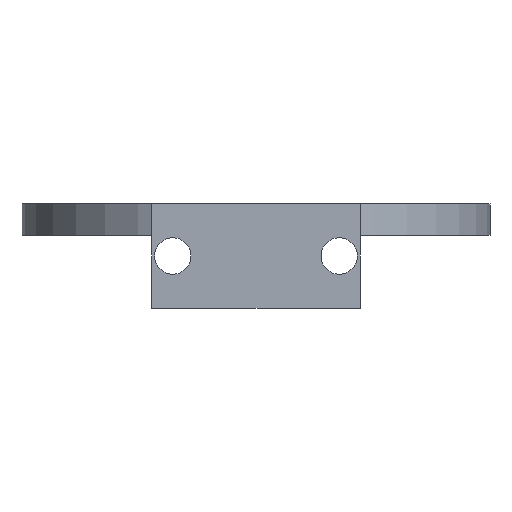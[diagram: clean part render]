
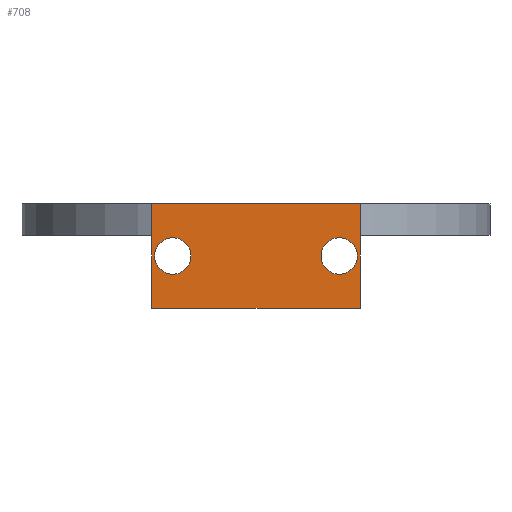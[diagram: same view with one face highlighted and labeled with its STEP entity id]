
A CAD part, left-side view. The second image highlights one B-rep face of the part: STEP entity #708.
In plain terms, the highlighted planar face has unit normal (-1, 0, 0).
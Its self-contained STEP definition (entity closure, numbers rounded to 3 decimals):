
#19=FACE_BOUND('',#109,.T.);
#20=FACE_BOUND('',#110,.T.);
#36=PLANE('',#764);
#69=FACE_OUTER_BOUND('',#108,.T.);
#108=EDGE_LOOP('',(#539,#540,#541,#542));
#109=EDGE_LOOP('',(#543));
#110=EDGE_LOOP('',(#544));
#172=LINE('',#1058,#259);
#173=LINE('',#1060,#260);
#174=LINE('',#1062,#261);
#175=LINE('',#1063,#262);
#259=VECTOR('',#862,10.);
#260=VECTOR('',#863,10.);
#261=VECTOR('',#864,10.);
#262=VECTOR('',#865,10.);
#317=CIRCLE('',#751,1.75);
#319=CIRCLE('',#754,1.75);
#329=VERTEX_POINT('',#989);
#331=VERTEX_POINT('',#995);
#352=VERTEX_POINT('',#1056);
#353=VERTEX_POINT('',#1057);
#354=VERTEX_POINT('',#1059);
#355=VERTEX_POINT('',#1061);
#396=EDGE_CURVE('',#329,#329,#317,.T.);
#399=EDGE_CURVE('',#331,#331,#319,.T.);
#428=EDGE_CURVE('',#352,#353,#172,.T.);
#429=EDGE_CURVE('',#353,#354,#173,.T.);
#430=EDGE_CURVE('',#355,#354,#174,.T.);
#431=EDGE_CURVE('',#352,#355,#175,.T.);
#539=ORIENTED_EDGE('',*,*,#428,.T.);
#540=ORIENTED_EDGE('',*,*,#429,.T.);
#541=ORIENTED_EDGE('',*,*,#430,.F.);
#542=ORIENTED_EDGE('',*,*,#431,.F.);
#543=ORIENTED_EDGE('',*,*,#396,.T.);
#544=ORIENTED_EDGE('',*,*,#399,.T.);
#708=ADVANCED_FACE('',(#69,#19,#20),#36,.T.);
#751=AXIS2_PLACEMENT_3D('',#991,#805,#806);
#754=AXIS2_PLACEMENT_3D('',#997,#812,#813);
#764=AXIS2_PLACEMENT_3D('',#1055,#860,#861);
#805=DIRECTION('center_axis',(1.,0.,0.));
#806=DIRECTION('ref_axis',(0.,1.,0.));
#812=DIRECTION('center_axis',(1.,0.,0.));
#813=DIRECTION('ref_axis',(0.,1.,0.));
#860=DIRECTION('center_axis',(-1.,0.,0.));
#861=DIRECTION('ref_axis',(0.,-1.,0.));
#862=DIRECTION('',(0.,-1.,0.));
#863=DIRECTION('',(0.,0.,1.));
#864=DIRECTION('',(0.,-1.,0.));
#865=DIRECTION('',(0.,0.,1.));
#989=CARTESIAN_POINT('',(-13.,-9.75,5.));
#991=CARTESIAN_POINT('Origin',(-13.,-8.,5.));
#995=CARTESIAN_POINT('',(-13.,6.25,5.));
#997=CARTESIAN_POINT('Origin',(-13.,8.,5.));
#1055=CARTESIAN_POINT('Origin',(-13.,10.,0.));
#1056=CARTESIAN_POINT('',(-13.,10.,0.));
#1057=CARTESIAN_POINT('',(-13.,-10.,0.));
#1058=CARTESIAN_POINT('',(-13.,10.,0.));
#1059=CARTESIAN_POINT('',(-13.,-10.,10.));
#1060=CARTESIAN_POINT('',(-13.,-10.,0.));
#1061=CARTESIAN_POINT('',(-13.,10.,10.));
#1062=CARTESIAN_POINT('',(-13.,10.,10.));
#1063=CARTESIAN_POINT('',(-13.,10.,0.));
